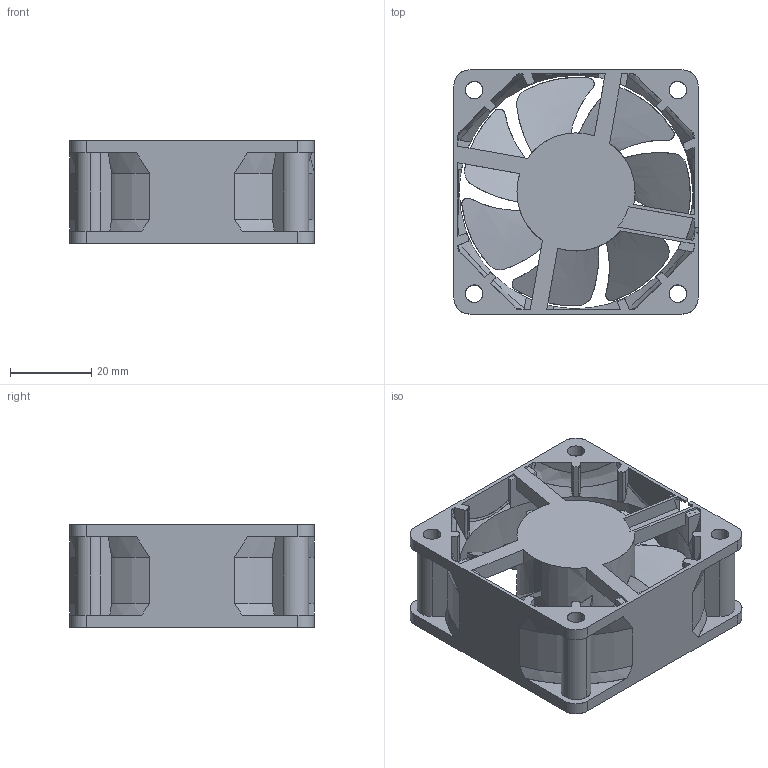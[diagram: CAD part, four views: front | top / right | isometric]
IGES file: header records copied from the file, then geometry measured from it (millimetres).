
Start section: SolidWorks IGES file using analytic representation for surfaces
Bounding box: 60 x 60 x 25.2 mm (x, y, z)
Surface area: 24193.7 mm2 (no closed solid volume)
Topology: 0 solids, 0 shells, 396 faces, 5013 edges, 5013 vertices
Faces by surface type: revolution 207, bspline 189
